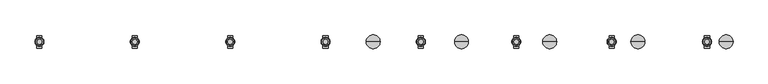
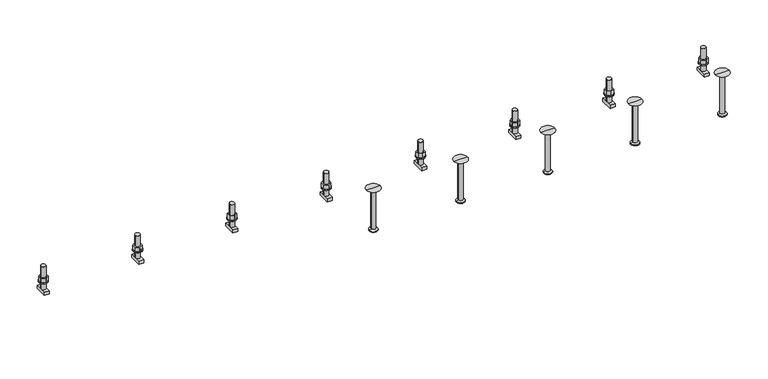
"""IFC4 building model written with IfcOpenShell, lengths in millimetres: fastener geometry, JTA-W JORDAHL® AnchorChannels : JTA-W L=3000 mm."""

from ifc_helpers import new_model, si_unit, point, frame, frame_2d, origin, place, context, project, spatial, polyline, circle_curve, trimmed, segment, composite_curve, outline, extrude, source, transform, mapped, element, save
from ifc_brep_helpers import plane_surface, cylinder_surface, revolved_surface, advanced_brep


def fastener_b51df3b7(model_context):
    return source(origin(), model_context, "Body", "SolidModel", [
        extrude(outline(polyline([(2608.3333333, -13.8564065), (2596.3333333, -6.9282032), (2596.3333333, 6.9282032), (2608.3333333, 13.8564065), (2620.3333333, 6.9282032), (2620.3333333, -6.9282032), (2608.3333333, -13.8564065)]), holes=[composite_curve([segment(trimmed(circle_curve(frame_2d((2608.3333333, 0.0)), 8.0), [point((2600.3333333, 0.0))], [point((2616.3333333, 0.0))], True, "CARTESIAN"), True, "CONTINUOUS"), segment(trimmed(circle_curve(frame_2d((2608.3333333, 0.0)), 8.0), [point((2616.3333333, 0.0))], [point((2600.3333333, 0.0))], True, "CARTESIAN"), True, "CONTINUOUS")], self_intersect=False)]), frame((0.0, 0.0, 18.0), z_axis=(0.0, 0.0, 1.0), x_axis=(1.0, 0.0, 0.0)), (0.0, 0.0, 1.0), 14.8),
        extrude(outline(composite_curve([segment(trimmed(circle_curve(frame_2d((2608.3333333, 0.0)), 15.0), [point((2593.3333333, 0.0))], [point((2623.3333333, 0.0))], False, "CARTESIAN"), True, "CONTINUOUS"), segment(trimmed(circle_curve(frame_2d((2608.3333333, 0.0)), 15.0), [point((2623.3333333, 0.0))], [point((2593.3333333, 0.0))], False, "CARTESIAN"), True, "CONTINUOUS")], self_intersect=False), holes=[composite_curve([segment(trimmed(circle_curve(frame_2d((2608.3333333, 0.0)), 8.5), [point((2599.8333333, 0.0))], [point((2616.8333333, 0.0))], True, "CARTESIAN"), True, "CONTINUOUS"), segment(trimmed(circle_curve(frame_2d((2608.3333333, 0.0)), 8.5), [point((2616.8333333, 0.0))], [point((2599.8333333, 0.0))], True, "CARTESIAN"), True, "CONTINUOUS")], self_intersect=False)]), frame((0.0, 0.0, 15.0), z_axis=(0.0, 0.0, 1.0), x_axis=(1.0, 0.0, 0.0)), (0.0, 0.0, 1.0), 3.0),
        extrude(outline(polyline([(2291.6666667, -13.8564065), (2279.6666667, -6.9282032), (2279.6666667, 6.9282032), (2291.6666667, 13.8564065), (2303.6666667, 6.9282032), (2303.6666667, -6.9282032), (2291.6666667, -13.8564065)]), holes=[composite_curve([segment(trimmed(circle_curve(frame_2d((2291.6666667, 0.0)), 8.0), [point((2283.6666667, 0.0))], [point((2299.6666667, 0.0))], True, "CARTESIAN"), True, "CONTINUOUS"), segment(trimmed(circle_curve(frame_2d((2291.6666667, 0.0)), 8.0), [point((2299.6666667, 0.0))], [point((2283.6666667, 0.0))], True, "CARTESIAN"), True, "CONTINUOUS")], self_intersect=False)]), frame((0.0, 0.0, 18.0), z_axis=(0.0, 0.0, 1.0), x_axis=(1.0, 0.0, 0.0)), (0.0, 0.0, 1.0), 14.8),
        extrude(outline(composite_curve([segment(trimmed(circle_curve(frame_2d((2291.6666667, 0.0)), 15.0), [point((2276.6666667, 0.0))], [point((2306.6666667, 0.0))], False, "CARTESIAN"), True, "CONTINUOUS"), segment(trimmed(circle_curve(frame_2d((2291.6666667, 0.0)), 15.0), [point((2306.6666667, 0.0))], [point((2276.6666667, 0.0))], False, "CARTESIAN"), True, "CONTINUOUS")], self_intersect=False), holes=[composite_curve([segment(trimmed(circle_curve(frame_2d((2291.6666667, 0.0)), 8.5), [point((2283.1666667, 0.0))], [point((2300.1666667, 0.0))], True, "CARTESIAN"), True, "CONTINUOUS"), segment(trimmed(circle_curve(frame_2d((2291.6666667, 0.0)), 8.5), [point((2300.1666667, 0.0))], [point((2283.1666667, 0.0))], True, "CARTESIAN"), True, "CONTINUOUS")], self_intersect=False)]), frame((0.0, 0.0, 15.0), z_axis=(0.0, 0.0, 1.0), x_axis=(1.0, 0.0, 0.0)), (0.0, 0.0, 1.0), 3.0),
        extrude(outline(polyline([(1975.0, -13.8564065), (1963.0, -6.9282032), (1963.0, 6.9282032), (1975.0, 13.8564065), (1987.0, 6.9282032), (1987.0, -6.9282032), (1975.0, -13.8564065)]), holes=[composite_curve([segment(trimmed(circle_curve(frame_2d((1975.0, 0.0)), 8.0), [point((1967.0, 0.0))], [point((1983.0, 0.0))], True, "CARTESIAN"), True, "CONTINUOUS"), segment(trimmed(circle_curve(frame_2d((1975.0, 0.0)), 8.0), [point((1983.0, 0.0))], [point((1967.0, 0.0))], True, "CARTESIAN"), True, "CONTINUOUS")], self_intersect=False)]), frame((0.0, 0.0, 18.0), z_axis=(0.0, 0.0, 1.0), x_axis=(1.0, 0.0, 0.0)), (0.0, 0.0, 1.0), 14.8),
        extrude(outline(composite_curve([segment(trimmed(circle_curve(frame_2d((1975.0, 0.0)), 15.0), [point((1960.0, 0.0))], [point((1990.0, 0.0))], False, "CARTESIAN"), True, "CONTINUOUS"), segment(trimmed(circle_curve(frame_2d((1975.0, 0.0)), 15.0), [point((1990.0, 0.0))], [point((1960.0, 0.0))], False, "CARTESIAN"), True, "CONTINUOUS")], self_intersect=False), holes=[composite_curve([segment(trimmed(circle_curve(frame_2d((1975.0, 0.0)), 8.5), [point((1966.5, 0.0))], [point((1983.5, 0.0))], True, "CARTESIAN"), True, "CONTINUOUS"), segment(trimmed(circle_curve(frame_2d((1975.0, 0.0)), 8.5), [point((1983.5, 0.0))], [point((1966.5, 0.0))], True, "CARTESIAN"), True, "CONTINUOUS")], self_intersect=False)]), frame((0.0, 0.0, 15.0), z_axis=(0.0, 0.0, 1.0), x_axis=(1.0, 0.0, 0.0)), (0.0, 0.0, 1.0), 3.0),
        extrude(outline(polyline([(1658.3333333, -13.8564065), (1646.3333333, -6.9282032), (1646.3333333, 6.9282032), (1658.3333333, 13.8564065), (1670.3333333, 6.9282032), (1670.3333333, -6.9282032), (1658.3333333, -13.8564065)]), holes=[composite_curve([segment(trimmed(circle_curve(frame_2d((1658.3333333, 0.0)), 8.0), [point((1650.3333333, 0.0))], [point((1666.3333333, 0.0))], True, "CARTESIAN"), True, "CONTINUOUS"), segment(trimmed(circle_curve(frame_2d((1658.3333333, 0.0)), 8.0), [point((1666.3333333, 0.0))], [point((1650.3333333, 0.0))], True, "CARTESIAN"), True, "CONTINUOUS")], self_intersect=False)]), frame((0.0, 0.0, 18.0), z_axis=(0.0, 0.0, 1.0), x_axis=(1.0, 0.0, 0.0)), (0.0, 0.0, 1.0), 14.8),
        extrude(outline(composite_curve([segment(trimmed(circle_curve(frame_2d((1658.3333333, 0.0)), 15.0), [point((1643.3333333, 0.0))], [point((1673.3333333, 0.0))], False, "CARTESIAN"), True, "CONTINUOUS"), segment(trimmed(circle_curve(frame_2d((1658.3333333, 0.0)), 15.0), [point((1673.3333333, 0.0))], [point((1643.3333333, 0.0))], False, "CARTESIAN"), True, "CONTINUOUS")], self_intersect=False), holes=[composite_curve([segment(trimmed(circle_curve(frame_2d((1658.3333333, 0.0)), 8.5), [point((1649.8333333, 0.0))], [point((1666.8333333, 0.0))], True, "CARTESIAN"), True, "CONTINUOUS"), segment(trimmed(circle_curve(frame_2d((1658.3333333, 0.0)), 8.5), [point((1666.8333333, 0.0))], [point((1649.8333333, 0.0))], True, "CARTESIAN"), True, "CONTINUOUS")], self_intersect=False)]), frame((0.0, 0.0, 15.0), z_axis=(0.0, 0.0, 1.0), x_axis=(1.0, 0.0, 0.0)), (0.0, 0.0, 1.0), 3.0),
        extrude(outline(polyline([(1341.6666667, -13.8564065), (1329.6666667, -6.9282032), (1329.6666667, 6.9282032), (1341.6666667, 13.8564065), (1353.6666667, 6.9282032), (1353.6666667, -6.9282032), (1341.6666667, -13.8564065)]), holes=[composite_curve([segment(trimmed(circle_curve(frame_2d((1341.6666667, 0.0)), 8.0), [point((1333.6666667, 0.0))], [point((1349.6666667, 0.0))], True, "CARTESIAN"), True, "CONTINUOUS"), segment(trimmed(circle_curve(frame_2d((1341.6666667, 0.0)), 8.0), [point((1349.6666667, 0.0))], [point((1333.6666667, 0.0))], True, "CARTESIAN"), True, "CONTINUOUS")], self_intersect=False)]), frame((0.0, 0.0, 18.0), z_axis=(0.0, 0.0, 1.0), x_axis=(1.0, 0.0, 0.0)), (0.0, 0.0, 1.0), 14.8),
        extrude(outline(composite_curve([segment(trimmed(circle_curve(frame_2d((1341.6666667, 0.0)), 15.0), [point((1326.6666667, 0.0))], [point((1356.6666667, 0.0))], False, "CARTESIAN"), True, "CONTINUOUS"), segment(trimmed(circle_curve(frame_2d((1341.6666667, 0.0)), 15.0), [point((1356.6666667, 0.0))], [point((1326.6666667, 0.0))], False, "CARTESIAN"), True, "CONTINUOUS")], self_intersect=False), holes=[composite_curve([segment(trimmed(circle_curve(frame_2d((1341.6666667, 0.0)), 8.5), [point((1333.1666667, 0.0))], [point((1350.1666667, 0.0))], True, "CARTESIAN"), True, "CONTINUOUS"), segment(trimmed(circle_curve(frame_2d((1341.6666667, 0.0)), 8.5), [point((1350.1666667, 0.0))], [point((1333.1666667, 0.0))], True, "CARTESIAN"), True, "CONTINUOUS")], self_intersect=False)]), frame((0.0, 0.0, 15.0), z_axis=(0.0, 0.0, 1.0), x_axis=(1.0, 0.0, 0.0)), (0.0, 0.0, 1.0), 3.0),
        extrude(outline(polyline([(1025.0, -13.8564065), (1013.0, -6.9282032), (1013.0, 6.9282032), (1025.0, 13.8564065), (1037.0, 6.9282032), (1037.0, -6.9282032), (1025.0, -13.8564065)]), holes=[composite_curve([segment(trimmed(circle_curve(frame_2d((1025.0, 0.0)), 8.0), [point((1017.0, 0.0))], [point((1033.0, 0.0))], True, "CARTESIAN"), True, "CONTINUOUS"), segment(trimmed(circle_curve(frame_2d((1025.0, 0.0)), 8.0), [point((1033.0, 0.0))], [point((1017.0, 0.0))], True, "CARTESIAN"), True, "CONTINUOUS")], self_intersect=False)]), frame((0.0, 0.0, 18.0), z_axis=(0.0, 0.0, 1.0), x_axis=(1.0, 0.0, 0.0)), (0.0, 0.0, 1.0), 14.8),
        extrude(outline(composite_curve([segment(trimmed(circle_curve(frame_2d((1025.0, 0.0)), 15.0), [point((1010.0, 0.0))], [point((1040.0, 0.0))], False, "CARTESIAN"), True, "CONTINUOUS"), segment(trimmed(circle_curve(frame_2d((1025.0, 0.0)), 15.0), [point((1040.0, 0.0))], [point((1010.0, 0.0))], False, "CARTESIAN"), True, "CONTINUOUS")], self_intersect=False), holes=[composite_curve([segment(trimmed(circle_curve(frame_2d((1025.0, 0.0)), 8.5), [point((1016.5, 0.0))], [point((1033.5, 0.0))], True, "CARTESIAN"), True, "CONTINUOUS"), segment(trimmed(circle_curve(frame_2d((1025.0, 0.0)), 8.5), [point((1033.5, 0.0))], [point((1016.5, 0.0))], True, "CARTESIAN"), True, "CONTINUOUS")], self_intersect=False)]), frame((0.0, 0.0, 15.0), z_axis=(0.0, 0.0, 1.0), x_axis=(1.0, 0.0, 0.0)), (0.0, 0.0, 1.0), 3.0),
        extrude(outline(polyline([(708.3333333, -13.8564065), (696.3333333, -6.9282032), (696.3333333, 6.9282032), (708.3333333, 13.8564065), (720.3333333, 6.9282032), (720.3333333, -6.9282032), (708.3333333, -13.8564065)]), holes=[composite_curve([segment(trimmed(circle_curve(frame_2d((708.3333333, 0.0)), 8.0), [point((700.3333333, 0.0))], [point((716.3333333, 0.0))], True, "CARTESIAN"), True, "CONTINUOUS"), segment(trimmed(circle_curve(frame_2d((708.3333333, 0.0)), 8.0), [point((716.3333333, 0.0))], [point((700.3333333, 0.0))], True, "CARTESIAN"), True, "CONTINUOUS")], self_intersect=False)]), frame((0.0, 0.0, 18.0), z_axis=(0.0, 0.0, 1.0), x_axis=(1.0, 0.0, 0.0)), (0.0, 0.0, 1.0), 14.8),
        extrude(outline(composite_curve([segment(trimmed(circle_curve(frame_2d((708.3333333, 0.0)), 15.0), [point((693.3333333, 0.0))], [point((723.3333333, 0.0))], False, "CARTESIAN"), True, "CONTINUOUS"), segment(trimmed(circle_curve(frame_2d((708.3333333, 0.0)), 15.0), [point((723.3333333, 0.0))], [point((693.3333333, 0.0))], False, "CARTESIAN"), True, "CONTINUOUS")], self_intersect=False), holes=[composite_curve([segment(trimmed(circle_curve(frame_2d((708.3333333, 0.0)), 8.5), [point((699.8333333, 0.0))], [point((716.8333333, 0.0))], True, "CARTESIAN"), True, "CONTINUOUS"), segment(trimmed(circle_curve(frame_2d((708.3333333, 0.0)), 8.5), [point((716.8333333, 0.0))], [point((699.8333333, 0.0))], True, "CARTESIAN"), True, "CONTINUOUS")], self_intersect=False)]), frame((0.0, 0.0, 15.0), z_axis=(0.0, 0.0, 1.0), x_axis=(1.0, 0.0, 0.0)), (0.0, 0.0, 1.0), 3.0),
        extrude(outline(polyline([(391.6666667, -13.8564065), (379.6666667, -6.9282032), (379.6666667, 6.9282032), (391.6666667, 13.8564065), (403.6666667, 6.9282032), (403.6666667, -6.9282032), (391.6666667, -13.8564065)]), holes=[composite_curve([segment(trimmed(circle_curve(frame_2d((391.6666667, 0.0)), 8.0), [point((383.6666667, 0.0))], [point((399.6666667, 0.0))], True, "CARTESIAN"), True, "CONTINUOUS"), segment(trimmed(circle_curve(frame_2d((391.6666667, 0.0)), 8.0), [point((399.6666667, 0.0))], [point((383.6666667, 0.0))], True, "CARTESIAN"), True, "CONTINUOUS")], self_intersect=False)]), frame((0.0, 0.0, 18.0), z_axis=(0.0, 0.0, 1.0), x_axis=(1.0, 0.0, 0.0)), (0.0, 0.0, 1.0), 14.8),
        extrude(outline(composite_curve([segment(trimmed(circle_curve(frame_2d((391.6666667, 0.0)), 15.0), [point((376.6666667, 0.0))], [point((406.6666667, 0.0))], False, "CARTESIAN"), True, "CONTINUOUS"), segment(trimmed(circle_curve(frame_2d((391.6666667, 0.0)), 15.0), [point((406.6666667, 0.0))], [point((376.6666667, 0.0))], False, "CARTESIAN"), True, "CONTINUOUS")], self_intersect=False), holes=[composite_curve([segment(trimmed(circle_curve(frame_2d((391.6666667, 0.0)), 8.5), [point((383.1666667, 0.0))], [point((400.1666667, 0.0))], True, "CARTESIAN"), True, "CONTINUOUS"), segment(trimmed(circle_curve(frame_2d((391.6666667, 0.0)), 8.5), [point((400.1666667, 0.0))], [point((383.1666667, 0.0))], True, "CARTESIAN"), True, "CONTINUOUS")], self_intersect=False)]), frame((0.0, 0.0, 15.0), z_axis=(0.0, 0.0, 1.0), x_axis=(1.0, 0.0, 0.0)), (0.0, 0.0, 1.0), 3.0),
        advanced_brep(
        [(2616.8333333, -20.7, -10.0), (2616.8333333, -20.7, -21.0), (2616.8333333, 20.7, -21.0), (2616.8333333, 20.7, -10.0), (2599.8333333, -20.7, -10.0), (2599.8333333, 20.7, -10.0), (2599.8333333, 20.7, -21.0), (2599.8333333, -20.7, -21.0), (2616.3333333, 0.0, -10.0), (2600.3333333, 0.0, -10.0), (2600.3333333, 0.0, 70.0), (2616.3333333, 0.0, 70.0)],
        [
            (0, 1),
            (1, 2),
            (2, 3),
            (3, 0),
            (4, 5),
            (5, 6),
            (6, 7),
            (7, 4),
            (3, 5),
            (4, 0),
            (8, 9, circle_curve(frame((2608.3333333, 0.0, -10.0), z_axis=(0.0, 0.0, -1.0), x_axis=(1.0, 0.0, 0.0)), 8.0)),
            (9, 8, circle_curve(frame((2608.3333333, 0.0, -10.0), z_axis=(0.0, 0.0, -1.0), x_axis=(1.0, 0.0, 0.0)), 8.0)),
            (2, 6),
            (1, 7),
            (10, 11, circle_curve(frame((2608.3333333, 0.0, 70.0), z_axis=(0.0, 0.0, 1.0), x_axis=(1.0, 0.0, 0.0)), 8.0)),
            (11, 10, circle_curve(frame((2608.3333333, 0.0, 70.0), z_axis=(0.0, 0.0, 1.0), x_axis=(1.0, 0.0, 0.0)), 8.0)),
            (11, 8),
            (9, 10),
        ],
        [
            plane_surface(frame((2616.8333333, 20.7, -10.0), z_axis=(1.0, 0.0, 0.0), x_axis=(0.0, 1.0, 0.0))),
            plane_surface(frame((2599.8333333, 20.7, -10.0), z_axis=(-1.0, 0.0, 0.0), x_axis=(0.0, -1.0, 0.0))),
            plane_surface(frame((2616.8333333, -20.7, -10.0), z_axis=(0.0, 0.0, 1.0), x_axis=(-1.0, 0.0, 0.0))),
            plane_surface(frame((2616.8333333, 20.7, -10.0), z_axis=(0.0, 1.0, 0.0), x_axis=(-1.0, 0.0, 0.0))),
            plane_surface(frame((2616.8333333, 20.7, -21.0), z_axis=(0.0, 0.0, -1.0), x_axis=(-1.0, 0.0, 0.0))),
            plane_surface(frame((2616.8333333, -20.7, -21.0), z_axis=(0.0, -1.0, 0.0), x_axis=(-1.0, 0.0, 0.0))),
            plane_surface(frame((2616.3333333, 0.0, 70.0), z_axis=(0.0, 0.0, 1.0), x_axis=(0.0, -1.0, 0.0))),
            cylinder_surface(frame((2608.3333333, 0.0, -10.0), z_axis=(0.0, 0.0, 1.0), x_axis=(1.0, 0.0, 0.0)), 8.0),
        ],
        [
            (0, [[1, 2, 3, 4]]),
            (1, [[5, 6, 7, 8]]),
            (2, [[9, -5, 10, -4], [11, 12]]),
            (3, [[13, -6, -9, -3]]),
            (4, [[14, -7, -13, -2]]),
            (5, [[-10, -8, -14, -1]]),
            (6, [[15, 16]]),
            (7, [[17, -12, 18, -16]]),
            (7, [[-18, -11, -17, -15]]),
        ],
    ),
        advanced_brep(
        [(2300.1666667, -20.7, -10.0), (2300.1666667, -20.7, -21.0), (2300.1666667, 20.7, -21.0), (2300.1666667, 20.7, -10.0), (2283.1666667, -20.7, -10.0), (2283.1666667, 20.7, -10.0), (2283.1666667, 20.7, -21.0), (2283.1666667, -20.7, -21.0), (2299.6666667, 0.0, -10.0), (2283.6666667, 0.0, -10.0), (2283.6666667, 0.0, 70.0), (2299.6666667, 0.0, 70.0)],
        [
            (0, 1),
            (1, 2),
            (2, 3),
            (3, 0),
            (4, 5),
            (5, 6),
            (6, 7),
            (7, 4),
            (3, 5),
            (4, 0),
            (8, 9, circle_curve(frame((2291.6666667, 0.0, -10.0), z_axis=(0.0, 0.0, -1.0), x_axis=(1.0, 0.0, 0.0)), 8.0)),
            (9, 8, circle_curve(frame((2291.6666667, 0.0, -10.0), z_axis=(0.0, 0.0, -1.0), x_axis=(1.0, 0.0, 0.0)), 8.0)),
            (2, 6),
            (1, 7),
            (10, 11, circle_curve(frame((2291.6666667, 0.0, 70.0), z_axis=(0.0, 0.0, 1.0), x_axis=(1.0, 0.0, 0.0)), 8.0)),
            (11, 10, circle_curve(frame((2291.6666667, 0.0, 70.0), z_axis=(0.0, 0.0, 1.0), x_axis=(1.0, 0.0, 0.0)), 8.0)),
            (11, 8),
            (9, 10),
        ],
        [
            plane_surface(frame((2300.1666667, 20.7, -10.0), z_axis=(1.0, 0.0, 0.0), x_axis=(0.0, 1.0, 0.0))),
            plane_surface(frame((2283.1666667, 20.7, -10.0), z_axis=(-1.0, 0.0, 0.0), x_axis=(0.0, -1.0, 0.0))),
            plane_surface(frame((2300.1666667, -20.7, -10.0), z_axis=(0.0, 0.0, 1.0), x_axis=(-1.0, 0.0, 0.0))),
            plane_surface(frame((2300.1666667, 20.7, -10.0), z_axis=(0.0, 1.0, 0.0), x_axis=(-1.0, 0.0, 0.0))),
            plane_surface(frame((2300.1666667, 20.7, -21.0), z_axis=(0.0, 0.0, -1.0), x_axis=(-1.0, 0.0, 0.0))),
            plane_surface(frame((2300.1666667, -20.7, -21.0), z_axis=(0.0, -1.0, 0.0), x_axis=(-1.0, 0.0, 0.0))),
            plane_surface(frame((2299.6666667, 0.0, 70.0), z_axis=(0.0, 0.0, 1.0), x_axis=(0.0, -1.0, 0.0))),
            cylinder_surface(frame((2291.6666667, 0.0, -10.0), z_axis=(0.0, 0.0, 1.0), x_axis=(1.0, 0.0, 0.0)), 8.0),
        ],
        [
            (0, [[1, 2, 3, 4]]),
            (1, [[5, 6, 7, 8]]),
            (2, [[9, -5, 10, -4], [11, 12]]),
            (3, [[13, -6, -9, -3]]),
            (4, [[14, -7, -13, -2]]),
            (5, [[-10, -8, -14, -1]]),
            (6, [[15, 16]]),
            (7, [[17, -12, 18, -16]]),
            (7, [[-18, -11, -17, -15]]),
        ],
    ),
        advanced_brep(
        [(1983.5, -20.7, -10.0), (1983.5, -20.7, -21.0), (1983.5, 20.7, -21.0), (1983.5, 20.7, -10.0), (1966.5, -20.7, -10.0), (1966.5, 20.7, -10.0), (1966.5, 20.7, -21.0), (1966.5, -20.7, -21.0), (1983.0, 0.0, -10.0), (1967.0, 0.0, -10.0), (1967.0, 0.0, 70.0), (1983.0, 0.0, 70.0)],
        [
            (0, 1),
            (1, 2),
            (2, 3),
            (3, 0),
            (4, 5),
            (5, 6),
            (6, 7),
            (7, 4),
            (3, 5),
            (4, 0),
            (8, 9, circle_curve(frame((1975.0, 0.0, -10.0), z_axis=(0.0, 0.0, -1.0), x_axis=(1.0, 0.0, 0.0)), 8.0)),
            (9, 8, circle_curve(frame((1975.0, 0.0, -10.0), z_axis=(0.0, 0.0, -1.0), x_axis=(1.0, 0.0, 0.0)), 8.0)),
            (2, 6),
            (1, 7),
            (10, 11, circle_curve(frame((1975.0, 0.0, 70.0), z_axis=(0.0, 0.0, 1.0), x_axis=(1.0, 0.0, 0.0)), 8.0)),
            (11, 10, circle_curve(frame((1975.0, 0.0, 70.0), z_axis=(0.0, 0.0, 1.0), x_axis=(1.0, 0.0, 0.0)), 8.0)),
            (11, 8),
            (9, 10),
        ],
        [
            plane_surface(frame((1983.5, 20.7, -10.0), z_axis=(1.0, 0.0, 0.0), x_axis=(0.0, 1.0, 0.0))),
            plane_surface(frame((1966.5, 20.7, -10.0), z_axis=(-1.0, 0.0, 0.0), x_axis=(0.0, -1.0, 0.0))),
            plane_surface(frame((1983.5, -20.7, -10.0), z_axis=(0.0, 0.0, 1.0), x_axis=(-1.0, 0.0, 0.0))),
            plane_surface(frame((1983.5, 20.7, -10.0), z_axis=(0.0, 1.0, 0.0), x_axis=(-1.0, 0.0, 0.0))),
            plane_surface(frame((1983.5, 20.7, -21.0), z_axis=(0.0, 0.0, -1.0), x_axis=(-1.0, 0.0, 0.0))),
            plane_surface(frame((1983.5, -20.7, -21.0), z_axis=(0.0, -1.0, 0.0), x_axis=(-1.0, 0.0, 0.0))),
            plane_surface(frame((1983.0, 0.0, 70.0), z_axis=(0.0, 0.0, 1.0), x_axis=(0.0, -1.0, 0.0))),
            cylinder_surface(frame((1975.0, 0.0, -10.0), z_axis=(0.0, 0.0, 1.0), x_axis=(1.0, 0.0, 0.0)), 8.0),
        ],
        [
            (0, [[1, 2, 3, 4]]),
            (1, [[5, 6, 7, 8]]),
            (2, [[9, -5, 10, -4], [11, 12]]),
            (3, [[13, -6, -9, -3]]),
            (4, [[14, -7, -13, -2]]),
            (5, [[-10, -8, -14, -1]]),
            (6, [[15, 16]]),
            (7, [[17, -12, 18, -16]]),
            (7, [[-18, -11, -17, -15]]),
        ],
    ),
        advanced_brep(
        [(1666.8333333, -20.7, -10.0), (1666.8333333, -20.7, -21.0), (1666.8333333, 20.7, -21.0), (1666.8333333, 20.7, -10.0), (1649.8333333, -20.7, -10.0), (1649.8333333, 20.7, -10.0), (1649.8333333, 20.7, -21.0), (1649.8333333, -20.7, -21.0), (1666.3333333, 0.0, -10.0), (1650.3333333, 0.0, -10.0), (1650.3333333, 0.0, 70.0), (1666.3333333, 0.0, 70.0)],
        [
            (0, 1),
            (1, 2),
            (2, 3),
            (3, 0),
            (4, 5),
            (5, 6),
            (6, 7),
            (7, 4),
            (3, 5),
            (4, 0),
            (8, 9, circle_curve(frame((1658.3333333, 0.0, -10.0), z_axis=(0.0, 0.0, -1.0), x_axis=(1.0, 0.0, 0.0)), 8.0)),
            (9, 8, circle_curve(frame((1658.3333333, 0.0, -10.0), z_axis=(0.0, 0.0, -1.0), x_axis=(1.0, 0.0, 0.0)), 8.0)),
            (2, 6),
            (1, 7),
            (10, 11, circle_curve(frame((1658.3333333, 0.0, 70.0), z_axis=(0.0, 0.0, 1.0), x_axis=(1.0, 0.0, 0.0)), 8.0)),
            (11, 10, circle_curve(frame((1658.3333333, 0.0, 70.0), z_axis=(0.0, 0.0, 1.0), x_axis=(1.0, 0.0, 0.0)), 8.0)),
            (11, 8),
            (9, 10),
        ],
        [
            plane_surface(frame((1666.8333333, 20.7, -10.0), z_axis=(1.0, 0.0, 0.0), x_axis=(0.0, 1.0, 0.0))),
            plane_surface(frame((1649.8333333, 20.7, -10.0), z_axis=(-1.0, 0.0, 0.0), x_axis=(0.0, -1.0, 0.0))),
            plane_surface(frame((1666.8333333, -20.7, -10.0), z_axis=(0.0, 0.0, 1.0), x_axis=(-1.0, 0.0, 0.0))),
            plane_surface(frame((1666.8333333, 20.7, -10.0), z_axis=(0.0, 1.0, 0.0), x_axis=(-1.0, 0.0, 0.0))),
            plane_surface(frame((1666.8333333, 20.7, -21.0), z_axis=(0.0, 0.0, -1.0), x_axis=(-1.0, 0.0, 0.0))),
            plane_surface(frame((1666.8333333, -20.7, -21.0), z_axis=(0.0, -1.0, 0.0), x_axis=(-1.0, 0.0, 0.0))),
            plane_surface(frame((1666.3333333, 0.0, 70.0), z_axis=(0.0, 0.0, 1.0), x_axis=(0.0, -1.0, 0.0))),
            cylinder_surface(frame((1658.3333333, 0.0, -10.0), z_axis=(0.0, 0.0, 1.0), x_axis=(1.0, 0.0, 0.0)), 8.0),
        ],
        [
            (0, [[1, 2, 3, 4]]),
            (1, [[5, 6, 7, 8]]),
            (2, [[9, -5, 10, -4], [11, 12]]),
            (3, [[13, -6, -9, -3]]),
            (4, [[14, -7, -13, -2]]),
            (5, [[-10, -8, -14, -1]]),
            (6, [[15, 16]]),
            (7, [[17, -12, 18, -16]]),
            (7, [[-18, -11, -17, -15]]),
        ],
    ),
        advanced_brep(
        [(1350.1666667, -20.7, -10.0), (1350.1666667, -20.7, -21.0), (1350.1666667, 20.7, -21.0), (1350.1666667, 20.7, -10.0), (1333.1666667, -20.7, -10.0), (1333.1666667, 20.7, -10.0), (1333.1666667, 20.7, -21.0), (1333.1666667, -20.7, -21.0), (1349.6666667, 0.0, -10.0), (1333.6666667, 0.0, -10.0), (1333.6666667, 0.0, 70.0), (1349.6666667, 0.0, 70.0)],
        [
            (0, 1),
            (1, 2),
            (2, 3),
            (3, 0),
            (4, 5),
            (5, 6),
            (6, 7),
            (7, 4),
            (3, 5),
            (4, 0),
            (8, 9, circle_curve(frame((1341.6666667, 0.0, -10.0), z_axis=(0.0, 0.0, -1.0), x_axis=(1.0, 0.0, 0.0)), 8.0)),
            (9, 8, circle_curve(frame((1341.6666667, 0.0, -10.0), z_axis=(0.0, 0.0, -1.0), x_axis=(1.0, 0.0, 0.0)), 8.0)),
            (2, 6),
            (1, 7),
            (10, 11, circle_curve(frame((1341.6666667, 0.0, 70.0), z_axis=(0.0, 0.0, 1.0), x_axis=(1.0, 0.0, 0.0)), 8.0)),
            (11, 10, circle_curve(frame((1341.6666667, 0.0, 70.0), z_axis=(0.0, 0.0, 1.0), x_axis=(1.0, 0.0, 0.0)), 8.0)),
            (11, 8),
            (9, 10),
        ],
        [
            plane_surface(frame((1350.1666667, 20.7, -10.0), z_axis=(1.0, 0.0, 0.0), x_axis=(0.0, 1.0, 0.0))),
            plane_surface(frame((1333.1666667, 20.7, -10.0), z_axis=(-1.0, 0.0, 0.0), x_axis=(0.0, -1.0, 0.0))),
            plane_surface(frame((1350.1666667, -20.7, -10.0), z_axis=(0.0, 0.0, 1.0), x_axis=(-1.0, 0.0, 0.0))),
            plane_surface(frame((1350.1666667, 20.7, -10.0), z_axis=(0.0, 1.0, 0.0), x_axis=(-1.0, 0.0, 0.0))),
            plane_surface(frame((1350.1666667, 20.7, -21.0), z_axis=(0.0, 0.0, -1.0), x_axis=(-1.0, 0.0, 0.0))),
            plane_surface(frame((1350.1666667, -20.7, -21.0), z_axis=(0.0, -1.0, 0.0), x_axis=(-1.0, 0.0, 0.0))),
            plane_surface(frame((1349.6666667, 0.0, 70.0), z_axis=(0.0, 0.0, 1.0), x_axis=(0.0, -1.0, 0.0))),
            cylinder_surface(frame((1341.6666667, 0.0, -10.0), z_axis=(0.0, 0.0, 1.0), x_axis=(1.0, 0.0, 0.0)), 8.0),
        ],
        [
            (0, [[1, 2, 3, 4]]),
            (1, [[5, 6, 7, 8]]),
            (2, [[9, -5, 10, -4], [11, 12]]),
            (3, [[13, -6, -9, -3]]),
            (4, [[14, -7, -13, -2]]),
            (5, [[-10, -8, -14, -1]]),
            (6, [[15, 16]]),
            (7, [[17, -12, 18, -16]]),
            (7, [[-18, -11, -17, -15]]),
        ],
    ),
        advanced_brep(
        [(1033.5, -20.7, -10.0), (1033.5, -20.7, -21.0), (1033.5, 20.7, -21.0), (1033.5, 20.7, -10.0), (1016.5, -20.7, -10.0), (1016.5, 20.7, -10.0), (1016.5, 20.7, -21.0), (1016.5, -20.7, -21.0), (1033.0, 0.0, -10.0), (1017.0, 0.0, -10.0), (1017.0, 0.0, 70.0), (1033.0, 0.0, 70.0)],
        [
            (0, 1),
            (1, 2),
            (2, 3),
            (3, 0),
            (4, 5),
            (5, 6),
            (6, 7),
            (7, 4),
            (3, 5),
            (4, 0),
            (8, 9, circle_curve(frame((1025.0, 0.0, -10.0), z_axis=(0.0, 0.0, -1.0), x_axis=(1.0, 0.0, 0.0)), 8.0)),
            (9, 8, circle_curve(frame((1025.0, 0.0, -10.0), z_axis=(0.0, 0.0, -1.0), x_axis=(1.0, 0.0, 0.0)), 8.0)),
            (2, 6),
            (1, 7),
            (10, 11, circle_curve(frame((1025.0, 0.0, 70.0), z_axis=(0.0, 0.0, 1.0), x_axis=(1.0, 0.0, 0.0)), 8.0)),
            (11, 10, circle_curve(frame((1025.0, 0.0, 70.0), z_axis=(0.0, 0.0, 1.0), x_axis=(1.0, 0.0, 0.0)), 8.0)),
            (11, 8),
            (9, 10),
        ],
        [
            plane_surface(frame((1033.5, 20.7, -10.0), z_axis=(1.0, 0.0, 0.0), x_axis=(0.0, 1.0, 0.0))),
            plane_surface(frame((1016.5, 20.7, -10.0), z_axis=(-1.0, 0.0, 0.0), x_axis=(0.0, -1.0, 0.0))),
            plane_surface(frame((1033.5, -20.7, -10.0), z_axis=(0.0, 0.0, 1.0), x_axis=(-1.0, 0.0, 0.0))),
            plane_surface(frame((1033.5, 20.7, -10.0), z_axis=(0.0, 1.0, 0.0), x_axis=(-1.0, 0.0, 0.0))),
            plane_surface(frame((1033.5, 20.7, -21.0), z_axis=(0.0, 0.0, -1.0), x_axis=(-1.0, 0.0, 0.0))),
            plane_surface(frame((1033.5, -20.7, -21.0), z_axis=(0.0, -1.0, 0.0), x_axis=(-1.0, 0.0, 0.0))),
            plane_surface(frame((1033.0, 0.0, 70.0), z_axis=(0.0, 0.0, 1.0), x_axis=(0.0, -1.0, 0.0))),
            cylinder_surface(frame((1025.0, 0.0, -10.0), z_axis=(0.0, 0.0, 1.0), x_axis=(1.0, 0.0, 0.0)), 8.0),
        ],
        [
            (0, [[1, 2, 3, 4]]),
            (1, [[5, 6, 7, 8]]),
            (2, [[9, -5, 10, -4], [11, 12]]),
            (3, [[13, -6, -9, -3]]),
            (4, [[14, -7, -13, -2]]),
            (5, [[-10, -8, -14, -1]]),
            (6, [[15, 16]]),
            (7, [[17, -12, 18, -16]]),
            (7, [[-18, -11, -17, -15]]),
        ],
    ),
        advanced_brep(
        [(716.8333333, -20.7, -10.0), (716.8333333, -20.7, -21.0), (716.8333333, 20.7, -21.0), (716.8333333, 20.7, -10.0), (699.8333333, -20.7, -10.0), (699.8333333, 20.7, -10.0), (699.8333333, 20.7, -21.0), (699.8333333, -20.7, -21.0), (716.3333333, 0.0, -10.0), (700.3333333, 0.0, -10.0), (700.3333333, 0.0, 70.0), (716.3333333, 0.0, 70.0)],
        [
            (0, 1),
            (1, 2),
            (2, 3),
            (3, 0),
            (4, 5),
            (5, 6),
            (6, 7),
            (7, 4),
            (3, 5),
            (4, 0),
            (8, 9, circle_curve(frame((708.3333333, 0.0, -10.0), z_axis=(0.0, 0.0, -1.0), x_axis=(1.0, 0.0, 0.0)), 8.0)),
            (9, 8, circle_curve(frame((708.3333333, 0.0, -10.0), z_axis=(0.0, 0.0, -1.0), x_axis=(1.0, 0.0, 0.0)), 8.0)),
            (2, 6),
            (1, 7),
            (10, 11, circle_curve(frame((708.3333333, 0.0, 70.0), z_axis=(0.0, 0.0, 1.0), x_axis=(1.0, 0.0, 0.0)), 8.0)),
            (11, 10, circle_curve(frame((708.3333333, 0.0, 70.0), z_axis=(0.0, 0.0, 1.0), x_axis=(1.0, 0.0, 0.0)), 8.0)),
            (11, 8),
            (9, 10),
        ],
        [
            plane_surface(frame((716.8333333, 20.7, -10.0), z_axis=(1.0, 0.0, 0.0), x_axis=(0.0, 1.0, 0.0))),
            plane_surface(frame((699.8333333, 20.7, -10.0), z_axis=(-1.0, 0.0, 0.0), x_axis=(0.0, -1.0, 0.0))),
            plane_surface(frame((716.8333333, -20.7, -10.0), z_axis=(0.0, 0.0, 1.0), x_axis=(-1.0, 0.0, 0.0))),
            plane_surface(frame((716.8333333, 20.7, -10.0), z_axis=(0.0, 1.0, 0.0), x_axis=(-1.0, 0.0, 0.0))),
            plane_surface(frame((716.8333333, 20.7, -21.0), z_axis=(0.0, 0.0, -1.0), x_axis=(-1.0, 0.0, 0.0))),
            plane_surface(frame((716.8333333, -20.7, -21.0), z_axis=(0.0, -1.0, 0.0), x_axis=(-1.0, 0.0, 0.0))),
            plane_surface(frame((716.3333333, 0.0, 70.0), z_axis=(0.0, 0.0, 1.0), x_axis=(0.0, -1.0, 0.0))),
            cylinder_surface(frame((708.3333333, 0.0, -10.0), z_axis=(0.0, 0.0, 1.0), x_axis=(1.0, 0.0, 0.0)), 8.0),
        ],
        [
            (0, [[1, 2, 3, 4]]),
            (1, [[5, 6, 7, 8]]),
            (2, [[9, -5, 10, -4], [11, 12]]),
            (3, [[13, -6, -9, -3]]),
            (4, [[14, -7, -13, -2]]),
            (5, [[-10, -8, -14, -1]]),
            (6, [[15, 16]]),
            (7, [[17, -12, 18, -16]]),
            (7, [[-18, -11, -17, -15]]),
        ],
    ),
        advanced_brep(
        [(400.1666667, -20.7, -10.0), (400.1666667, -20.7, -21.0), (400.1666667, 20.7, -21.0), (400.1666667, 20.7, -10.0), (383.1666667, -20.7, -10.0), (383.1666667, 20.7, -10.0), (383.1666667, 20.7, -21.0), (383.1666667, -20.7, -21.0), (399.6666667, 0.0, -10.0), (383.6666667, 0.0, -10.0), (383.6666667, 0.0, 70.0), (399.6666667, 0.0, 70.0)],
        [
            (0, 1),
            (1, 2),
            (2, 3),
            (3, 0),
            (4, 5),
            (5, 6),
            (6, 7),
            (7, 4),
            (3, 5),
            (4, 0),
            (8, 9, circle_curve(frame((391.6666667, 0.0, -10.0), z_axis=(0.0, 0.0, -1.0), x_axis=(1.0, 0.0, 0.0)), 8.0)),
            (9, 8, circle_curve(frame((391.6666667, 0.0, -10.0), z_axis=(0.0, 0.0, -1.0), x_axis=(1.0, 0.0, 0.0)), 8.0)),
            (2, 6),
            (1, 7),
            (10, 11, circle_curve(frame((391.6666667, 0.0, 70.0), z_axis=(0.0, 0.0, 1.0), x_axis=(1.0, 0.0, 0.0)), 8.0)),
            (11, 10, circle_curve(frame((391.6666667, 0.0, 70.0), z_axis=(0.0, 0.0, 1.0), x_axis=(1.0, 0.0, 0.0)), 8.0)),
            (11, 8),
            (9, 10),
        ],
        [
            plane_surface(frame((400.1666667, 20.7, -10.0), z_axis=(1.0, 0.0, 0.0), x_axis=(0.0, 1.0, 0.0))),
            plane_surface(frame((383.1666667, 20.7, -10.0), z_axis=(-1.0, 0.0, 0.0), x_axis=(0.0, -1.0, 0.0))),
            plane_surface(frame((400.1666667, -20.7, -10.0), z_axis=(0.0, 0.0, 1.0), x_axis=(-1.0, 0.0, 0.0))),
            plane_surface(frame((400.1666667, 20.7, -10.0), z_axis=(0.0, 1.0, 0.0), x_axis=(-1.0, 0.0, 0.0))),
            plane_surface(frame((400.1666667, 20.7, -21.0), z_axis=(0.0, 0.0, -1.0), x_axis=(-1.0, 0.0, 0.0))),
            plane_surface(frame((400.1666667, -20.7, -21.0), z_axis=(0.0, -1.0, 0.0), x_axis=(-1.0, 0.0, 0.0))),
            plane_surface(frame((399.6666667, 0.0, 70.0), z_axis=(0.0, 0.0, 1.0), x_axis=(0.0, -1.0, 0.0))),
            cylinder_surface(frame((391.6666667, 0.0, -10.0), z_axis=(0.0, 0.0, 1.0), x_axis=(1.0, 0.0, 0.0)), 8.0),
        ],
        [
            (0, [[1, 2, 3, 4]]),
            (1, [[5, 6, 7, 8]]),
            (2, [[9, -5, 10, -4], [11, 12]]),
            (3, [[13, -6, -9, -3]]),
            (4, [[14, -7, -13, -2]]),
            (5, [[-10, -8, -14, -1]]),
            (6, [[15, 16]]),
            (7, [[17, -12, 18, -16]]),
            (7, [[-18, -11, -17, -15]]),
        ],
    ),
        advanced_brep(
        [(2672.0, 0.0, -42.0), (2649.0, 0.0, -42.0), (2695.0, 0.0, -42.0), (2658.0, 0.0, -190.0), (2672.0, 0.0, -190.0), (2686.0, 0.0, -190.0), (2658.0, 0.0, -188.0), (2686.0, 0.0, -188.0), (2664.2, 0.0, -184.4204283), (2679.8, 0.0, -184.4204283), (2664.2, 0.0, -46.0), (2679.8, 0.0, -46.0)],
        [
            (0, 1),
            (1, 2, circle_curve(frame((2672.0, 0.0, -42.0), z_axis=(0.0, 0.0, 1.0), x_axis=(1.0, 0.0, 0.0)), 23.0)),
            (2, 0),
            (2, 1, circle_curve(frame((2672.0, 0.0, -42.0), z_axis=(0.0, 0.0, 1.0), x_axis=(1.0, 0.0, 0.0)), 23.0)),
            (3, 4),
            (4, 5),
            (5, 3, circle_curve(frame((2672.0, 0.0, -190.0), z_axis=(0.0, 0.0, -1.0), x_axis=(1.0, 0.0, 0.0)), 14.0)),
            (3, 5, circle_curve(frame((2672.0, 0.0, -190.0), z_axis=(0.0, 0.0, -1.0), x_axis=(1.0, 0.0, 0.0)), 14.0)),
            (6, 3),
            (5, 7),
            (7, 6, circle_curve(frame((2672.0, 0.0, -188.0), z_axis=(0.0, 0.0, -1.0), x_axis=(1.0, 0.0, 0.0)), 14.0)),
            (6, 7, circle_curve(frame((2672.0, 0.0, -188.0), z_axis=(0.0, 0.0, -1.0), x_axis=(1.0, 0.0, 0.0)), 14.0)),
            (8, 6),
            (7, 9),
            (9, 8, circle_curve(frame((2672.0, 0.0, -184.4204283), z_axis=(0.0, 0.0, -1.0), x_axis=(1.0, 0.0, 0.0)), 7.8)),
            (8, 9, circle_curve(frame((2672.0, 0.0, -184.4204283), z_axis=(0.0, 0.0, -1.0), x_axis=(1.0, 0.0, 0.0)), 7.8)),
            (10, 8),
            (9, 11),
            (11, 10, circle_curve(frame((2672.0, 0.0, -46.0), z_axis=(0.0, 0.0, -1.0), x_axis=(1.0, 0.0, 0.0)), 7.8)),
            (10, 11, circle_curve(frame((2672.0, 0.0, -46.0), z_axis=(0.0, 0.0, -1.0), x_axis=(1.0, 0.0, 0.0)), 7.8)),
            (1, 10),
            (11, 2),
        ],
        [
            plane_surface(frame((2672.0, 0.0, -42.0), z_axis=(0.0, 0.0, 1.0), x_axis=(1.0, 0.0, 0.0))),
            plane_surface(frame((2672.0, 0.0, -190.0), z_axis=(0.0, 0.0, -1.0), x_axis=(1.0, 0.0, 0.0))),
            cylinder_surface(frame((2672.0, 0.0, 2362.3150031), z_axis=(0.0, 0.0, 1.0), x_axis=(1.0, 0.0, 0.0)), 14.0),
            revolved_surface(polyline([(2686.0, 0.0, -188.0), (2679.8, 0.0, -184.4204283)]), (2672.0, 0.0, 2362.3150031), (0.0, 0.0, 1.0)),
            cylinder_surface(frame((2672.0, 0.0, 2362.3150031), z_axis=(0.0, 0.0, 1.0), x_axis=(1.0, 0.0, 0.0)), 7.8),
            revolved_surface(polyline([(2679.8, 0.0, -46.0), (2695.0, 0.0, -42.0)]), (2672.0, 0.0, 2362.3150031), (0.0, 0.0, 1.0)),
        ],
        [
            (0, [[1, 2, 3]]),
            (0, [[-3, 4, -1]]),
            (1, [[5, 6, 7]]),
            (1, [[-6, -5, 8]]),
            (2, [[9, -7, 10, 11]]),
            (2, [[-10, -8, -9, 12]]),
            (3, [[13, -11, 14, 15]]),
            (3, [[-14, -12, -13, 16]]),
            (4, [[17, -15, 18, 19]]),
            (4, [[-18, -16, -17, 20]]),
            (5, [[21, -19, 22, -2]]),
            (5, [[-22, -20, -21, -4]]),
        ],
    ),
        advanced_brep(
        [(2379.0, 0.0, -42.0), (2356.0, 0.0, -42.0), (2402.0, 0.0, -42.0), (2365.0, 0.0, -190.0), (2379.0, 0.0, -190.0), (2393.0, 0.0, -190.0), (2365.0, 0.0, -188.0), (2393.0, 0.0, -188.0), (2371.2, 0.0, -184.4204283), (2386.8, 0.0, -184.4204283), (2371.2, 0.0, -46.0), (2386.8, 0.0, -46.0)],
        [
            (0, 1),
            (1, 2, circle_curve(frame((2379.0, 0.0, -42.0), z_axis=(0.0, 0.0, 1.0), x_axis=(1.0, 0.0, 0.0)), 23.0)),
            (2, 0),
            (2, 1, circle_curve(frame((2379.0, 0.0, -42.0), z_axis=(0.0, 0.0, 1.0), x_axis=(1.0, 0.0, 0.0)), 23.0)),
            (3, 4),
            (4, 5),
            (5, 3, circle_curve(frame((2379.0, 0.0, -190.0), z_axis=(0.0, 0.0, -1.0), x_axis=(1.0, 0.0, 0.0)), 14.0)),
            (3, 5, circle_curve(frame((2379.0, 0.0, -190.0), z_axis=(0.0, 0.0, -1.0), x_axis=(1.0, 0.0, 0.0)), 14.0)),
            (6, 3),
            (5, 7),
            (7, 6, circle_curve(frame((2379.0, 0.0, -188.0), z_axis=(0.0, 0.0, -1.0), x_axis=(1.0, 0.0, 0.0)), 14.0)),
            (6, 7, circle_curve(frame((2379.0, 0.0, -188.0), z_axis=(0.0, 0.0, -1.0), x_axis=(1.0, 0.0, 0.0)), 14.0)),
            (8, 6),
            (7, 9),
            (9, 8, circle_curve(frame((2379.0, 0.0, -184.4204283), z_axis=(0.0, 0.0, -1.0), x_axis=(1.0, 0.0, 0.0)), 7.8)),
            (8, 9, circle_curve(frame((2379.0, 0.0, -184.4204283), z_axis=(0.0, 0.0, -1.0), x_axis=(1.0, 0.0, 0.0)), 7.8)),
            (10, 8),
            (9, 11),
            (11, 10, circle_curve(frame((2379.0, 0.0, -46.0), z_axis=(0.0, 0.0, -1.0), x_axis=(1.0, 0.0, 0.0)), 7.8)),
            (10, 11, circle_curve(frame((2379.0, 0.0, -46.0), z_axis=(0.0, 0.0, -1.0), x_axis=(1.0, 0.0, 0.0)), 7.8)),
            (1, 10),
            (11, 2),
        ],
        [
            plane_surface(frame((2379.0, 0.0, -42.0), z_axis=(0.0, 0.0, 1.0), x_axis=(1.0, 0.0, 0.0))),
            plane_surface(frame((2379.0, 0.0, -190.0), z_axis=(0.0, 0.0, -1.0), x_axis=(1.0, 0.0, 0.0))),
            cylinder_surface(frame((2379.0, 0.0, 2362.3150031), z_axis=(0.0, 0.0, 1.0), x_axis=(1.0, 0.0, 0.0)), 14.0),
            revolved_surface(polyline([(2393.0, 0.0, -188.0), (2386.8, 0.0, -184.4204283)]), (2379.0, 0.0, 2362.3150031), (0.0, 0.0, 1.0)),
            cylinder_surface(frame((2379.0, 0.0, 2362.3150031), z_axis=(0.0, 0.0, 1.0), x_axis=(1.0, 0.0, 0.0)), 7.8),
            revolved_surface(polyline([(2386.8, 0.0, -46.0), (2402.0, 0.0, -42.0)]), (2379.0, 0.0, 2362.3150031), (0.0, 0.0, 1.0)),
        ],
        [
            (0, [[1, 2, 3]]),
            (0, [[-3, 4, -1]]),
            (1, [[5, 6, 7]]),
            (1, [[-6, -5, 8]]),
            (2, [[9, -7, 10, 11]]),
            (2, [[-10, -8, -9, 12]]),
            (3, [[13, -11, 14, 15]]),
            (3, [[-14, -12, -13, 16]]),
            (4, [[17, -15, 18, 19]]),
            (4, [[-18, -16, -17, 20]]),
            (5, [[21, -19, 22, -2]]),
            (5, [[-22, -20, -21, -4]]),
        ],
    ),
        advanced_brep(
        [(2086.0, 0.0, -42.0), (2063.0, 0.0, -42.0), (2109.0, 0.0, -42.0), (2072.0, 0.0, -190.0), (2086.0, 0.0, -190.0), (2100.0, 0.0, -190.0), (2072.0, 0.0, -188.0), (2100.0, 0.0, -188.0), (2078.2, 0.0, -184.4204283), (2093.8, 0.0, -184.4204283), (2078.2, 0.0, -46.0), (2093.8, 0.0, -46.0)],
        [
            (0, 1),
            (1, 2, circle_curve(frame((2086.0, 0.0, -42.0), z_axis=(0.0, 0.0, 1.0), x_axis=(1.0, 0.0, 0.0)), 23.0)),
            (2, 0),
            (2, 1, circle_curve(frame((2086.0, 0.0, -42.0), z_axis=(0.0, 0.0, 1.0), x_axis=(1.0, 0.0, 0.0)), 23.0)),
            (3, 4),
            (4, 5),
            (5, 3, circle_curve(frame((2086.0, 0.0, -190.0), z_axis=(0.0, 0.0, -1.0), x_axis=(1.0, 0.0, 0.0)), 14.0)),
            (3, 5, circle_curve(frame((2086.0, 0.0, -190.0), z_axis=(0.0, 0.0, -1.0), x_axis=(1.0, 0.0, 0.0)), 14.0)),
            (6, 3),
            (5, 7),
            (7, 6, circle_curve(frame((2086.0, 0.0, -188.0), z_axis=(0.0, 0.0, -1.0), x_axis=(1.0, 0.0, 0.0)), 14.0)),
            (6, 7, circle_curve(frame((2086.0, 0.0, -188.0), z_axis=(0.0, 0.0, -1.0), x_axis=(1.0, 0.0, 0.0)), 14.0)),
            (8, 6),
            (7, 9),
            (9, 8, circle_curve(frame((2086.0, 0.0, -184.4204283), z_axis=(0.0, 0.0, -1.0), x_axis=(1.0, 0.0, 0.0)), 7.8)),
            (8, 9, circle_curve(frame((2086.0, 0.0, -184.4204283), z_axis=(0.0, 0.0, -1.0), x_axis=(1.0, 0.0, 0.0)), 7.8)),
            (10, 8),
            (9, 11),
            (11, 10, circle_curve(frame((2086.0, 0.0, -46.0), z_axis=(0.0, 0.0, -1.0), x_axis=(1.0, 0.0, 0.0)), 7.8)),
            (10, 11, circle_curve(frame((2086.0, 0.0, -46.0), z_axis=(0.0, 0.0, -1.0), x_axis=(1.0, 0.0, 0.0)), 7.8)),
            (1, 10),
            (11, 2),
        ],
        [
            plane_surface(frame((2086.0, 0.0, -42.0), z_axis=(0.0, 0.0, 1.0), x_axis=(1.0, 0.0, 0.0))),
            plane_surface(frame((2086.0, 0.0, -190.0), z_axis=(0.0, 0.0, -1.0), x_axis=(1.0, 0.0, 0.0))),
            cylinder_surface(frame((2086.0, 0.0, 2362.3150031), z_axis=(0.0, 0.0, 1.0), x_axis=(1.0, 0.0, 0.0)), 14.0),
            revolved_surface(polyline([(2100.0, 0.0, -188.0), (2093.8, 0.0, -184.4204283)]), (2086.0, 0.0, 2362.3150031), (0.0, 0.0, 1.0)),
            cylinder_surface(frame((2086.0, 0.0, 2362.3150031), z_axis=(0.0, 0.0, 1.0), x_axis=(1.0, 0.0, 0.0)), 7.8),
            revolved_surface(polyline([(2093.8, 0.0, -46.0), (2109.0, 0.0, -42.0)]), (2086.0, 0.0, 2362.3150031), (0.0, 0.0, 1.0)),
        ],
        [
            (0, [[1, 2, 3]]),
            (0, [[-3, 4, -1]]),
            (1, [[5, 6, 7]]),
            (1, [[-6, -5, 8]]),
            (2, [[9, -7, 10, 11]]),
            (2, [[-10, -8, -9, 12]]),
            (3, [[13, -11, 14, 15]]),
            (3, [[-14, -12, -13, 16]]),
            (4, [[17, -15, 18, 19]]),
            (4, [[-18, -16, -17, 20]]),
            (5, [[21, -19, 22, -2]]),
            (5, [[-22, -20, -21, -4]]),
        ],
    ),
        advanced_brep(
        [(1793.0, 0.0, -42.0), (1770.0, 0.0, -42.0), (1816.0, 0.0, -42.0), (1779.0, 0.0, -190.0), (1793.0, 0.0, -190.0), (1807.0, 0.0, -190.0), (1779.0, 0.0, -188.0), (1807.0, 0.0, -188.0), (1785.2, 0.0, -184.4204283), (1800.8, 0.0, -184.4204283), (1785.2, 0.0, -46.0), (1800.8, 0.0, -46.0)],
        [
            (0, 1),
            (1, 2, circle_curve(frame((1793.0, 0.0, -42.0), z_axis=(0.0, 0.0, 1.0), x_axis=(1.0, 0.0, 0.0)), 23.0)),
            (2, 0),
            (2, 1, circle_curve(frame((1793.0, 0.0, -42.0), z_axis=(0.0, 0.0, 1.0), x_axis=(1.0, 0.0, 0.0)), 23.0)),
            (3, 4),
            (4, 5),
            (5, 3, circle_curve(frame((1793.0, 0.0, -190.0), z_axis=(0.0, 0.0, -1.0), x_axis=(1.0, 0.0, 0.0)), 14.0)),
            (3, 5, circle_curve(frame((1793.0, 0.0, -190.0), z_axis=(0.0, 0.0, -1.0), x_axis=(1.0, 0.0, 0.0)), 14.0)),
            (6, 3),
            (5, 7),
            (7, 6, circle_curve(frame((1793.0, 0.0, -188.0), z_axis=(0.0, 0.0, -1.0), x_axis=(1.0, 0.0, 0.0)), 14.0)),
            (6, 7, circle_curve(frame((1793.0, 0.0, -188.0), z_axis=(0.0, 0.0, -1.0), x_axis=(1.0, 0.0, 0.0)), 14.0)),
            (8, 6),
            (7, 9),
            (9, 8, circle_curve(frame((1793.0, 0.0, -184.4204283), z_axis=(0.0, 0.0, -1.0), x_axis=(1.0, 0.0, 0.0)), 7.8)),
            (8, 9, circle_curve(frame((1793.0, 0.0, -184.4204283), z_axis=(0.0, 0.0, -1.0), x_axis=(1.0, 0.0, 0.0)), 7.8)),
            (10, 8),
            (9, 11),
            (11, 10, circle_curve(frame((1793.0, 0.0, -46.0), z_axis=(0.0, 0.0, -1.0), x_axis=(1.0, 0.0, 0.0)), 7.8)),
            (10, 11, circle_curve(frame((1793.0, 0.0, -46.0), z_axis=(0.0, 0.0, -1.0), x_axis=(1.0, 0.0, 0.0)), 7.8)),
            (1, 10),
            (11, 2),
        ],
        [
            plane_surface(frame((1793.0, 0.0, -42.0), z_axis=(0.0, 0.0, 1.0), x_axis=(1.0, 0.0, 0.0))),
            plane_surface(frame((1793.0, 0.0, -190.0), z_axis=(0.0, 0.0, -1.0), x_axis=(1.0, 0.0, 0.0))),
            cylinder_surface(frame((1793.0, 0.0, 2362.3150031), z_axis=(0.0, 0.0, 1.0), x_axis=(1.0, 0.0, 0.0)), 14.0),
            revolved_surface(polyline([(1807.0, 0.0, -188.0), (1800.8, 0.0, -184.4204283)]), (1793.0, 0.0, 2362.3150031), (0.0, 0.0, 1.0)),
            cylinder_surface(frame((1793.0, 0.0, 2362.3150031), z_axis=(0.0, 0.0, 1.0), x_axis=(1.0, 0.0, 0.0)), 7.8),
            revolved_surface(polyline([(1800.8, 0.0, -46.0), (1816.0, 0.0, -42.0)]), (1793.0, 0.0, 2362.3150031), (0.0, 0.0, 1.0)),
        ],
        [
            (0, [[1, 2, 3]]),
            (0, [[-3, 4, -1]]),
            (1, [[5, 6, 7]]),
            (1, [[-6, -5, 8]]),
            (2, [[9, -7, 10, 11]]),
            (2, [[-10, -8, -9, 12]]),
            (3, [[13, -11, 14, 15]]),
            (3, [[-14, -12, -13, 16]]),
            (4, [[17, -15, 18, 19]]),
            (4, [[-18, -16, -17, 20]]),
            (5, [[21, -19, 22, -2]]),
            (5, [[-22, -20, -21, -4]]),
        ],
    ),
        advanced_brep(
        [(1500.0, 0.0, -42.0), (1477.0, 0.0, -42.0), (1523.0, 0.0, -42.0), (1486.0, 0.0, -190.0), (1500.0, 0.0, -190.0), (1514.0, 0.0, -190.0), (1486.0, 0.0, -188.0), (1514.0, 0.0, -188.0), (1492.2, 0.0, -184.4204283), (1507.8, 0.0, -184.4204283), (1492.2, 0.0, -46.0), (1507.8, 0.0, -46.0)],
        [
            (0, 1),
            (1, 2, circle_curve(frame((1500.0, 0.0, -42.0), z_axis=(0.0, 0.0, 1.0), x_axis=(1.0, 0.0, 0.0)), 23.0)),
            (2, 0),
            (2, 1, circle_curve(frame((1500.0, 0.0, -42.0), z_axis=(0.0, 0.0, 1.0), x_axis=(1.0, 0.0, 0.0)), 23.0)),
            (3, 4),
            (4, 5),
            (5, 3, circle_curve(frame((1500.0, 0.0, -190.0), z_axis=(0.0, 0.0, -1.0), x_axis=(1.0, 0.0, 0.0)), 14.0)),
            (3, 5, circle_curve(frame((1500.0, 0.0, -190.0), z_axis=(0.0, 0.0, -1.0), x_axis=(1.0, 0.0, 0.0)), 14.0)),
            (6, 3),
            (5, 7),
            (7, 6, circle_curve(frame((1500.0, 0.0, -188.0), z_axis=(0.0, 0.0, -1.0), x_axis=(1.0, 0.0, 0.0)), 14.0)),
            (6, 7, circle_curve(frame((1500.0, 0.0, -188.0), z_axis=(0.0, 0.0, -1.0), x_axis=(1.0, 0.0, 0.0)), 14.0)),
            (8, 6),
            (7, 9),
            (9, 8, circle_curve(frame((1500.0, 0.0, -184.4204283), z_axis=(0.0, 0.0, -1.0), x_axis=(1.0, 0.0, 0.0)), 7.8)),
            (8, 9, circle_curve(frame((1500.0, 0.0, -184.4204283), z_axis=(0.0, 0.0, -1.0), x_axis=(1.0, 0.0, 0.0)), 7.8)),
            (10, 8),
            (9, 11),
            (11, 10, circle_curve(frame((1500.0, 0.0, -46.0), z_axis=(0.0, 0.0, -1.0), x_axis=(1.0, 0.0, 0.0)), 7.8)),
            (10, 11, circle_curve(frame((1500.0, 0.0, -46.0), z_axis=(0.0, 0.0, -1.0), x_axis=(1.0, 0.0, 0.0)), 7.8)),
            (1, 10),
            (11, 2),
        ],
        [
            plane_surface(frame((1500.0, 0.0, -42.0), z_axis=(0.0, 0.0, 1.0), x_axis=(1.0, 0.0, 0.0))),
            plane_surface(frame((1500.0, 0.0, -190.0), z_axis=(0.0, 0.0, -1.0), x_axis=(1.0, 0.0, 0.0))),
            cylinder_surface(frame((1500.0, 0.0, 2362.3150031), z_axis=(0.0, 0.0, 1.0), x_axis=(1.0, 0.0, 0.0)), 14.0),
            revolved_surface(polyline([(1514.0, 0.0, -188.0), (1507.8, 0.0, -184.4204283)]), (1500.0, 0.0, 2362.3150031), (0.0, 0.0, 1.0)),
            cylinder_surface(frame((1500.0, 0.0, 2362.3150031), z_axis=(0.0, 0.0, 1.0), x_axis=(1.0, 0.0, 0.0)), 7.8),
            revolved_surface(polyline([(1507.8, 0.0, -46.0), (1523.0, 0.0, -42.0)]), (1500.0, 0.0, 2362.3150031), (0.0, 0.0, 1.0)),
        ],
        [
            (0, [[1, 2, 3]]),
            (0, [[-3, 4, -1]]),
            (1, [[5, 6, 7]]),
            (1, [[-6, -5, 8]]),
            (2, [[9, -7, 10, 11]]),
            (2, [[-10, -8, -9, 12]]),
            (3, [[13, -11, 14, 15]]),
            (3, [[-14, -12, -13, 16]]),
            (4, [[17, -15, 18, 19]]),
            (4, [[-18, -16, -17, 20]]),
            (5, [[21, -19, 22, -2]]),
            (5, [[-22, -20, -21, -4]]),
        ],
    ),
    ])


if __name__ == "__main__":
    model = new_model("IFC4")
    model_context = context("Model", 3, world=origin())
    ifc_project = project(units=[si_unit("LENGTHUNIT", "METRE", prefix="MILLI")], contexts=[model_context])
    site = spatial("IfcSite", under=ifc_project)
    building = spatial("IfcBuilding", under=site)
    placement = place(None, origin())
    fastener_shape = fastener_b51df3b7(model_context)
    element("IfcFastener", 1, ObjectType="JTA-W JORDAHL® AnchorChannels : JTA-W L=3000 mm", at=placement, inside=building, context=model_context, shape_type="MappedRepresentation", body=[
        mapped(fastener_shape, transform((0.0, 0.0, 0.0), x_axis=(1.0, 0.0, 0.0), y_axis=(0.0, 1.0, 0.0), z_axis=(0.0, 0.0, 1.0))),
    ])
    save(model, "model.ifc")
